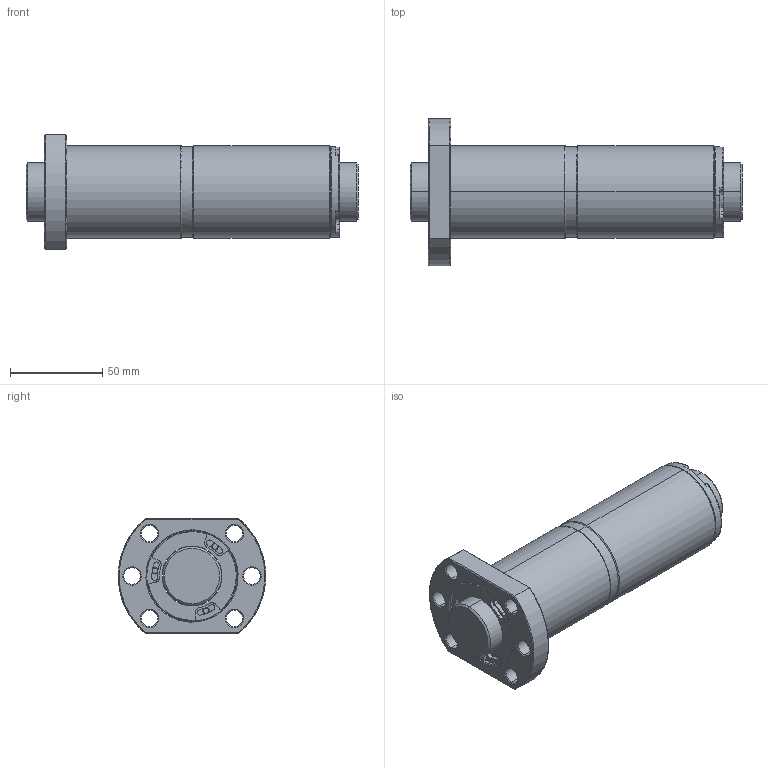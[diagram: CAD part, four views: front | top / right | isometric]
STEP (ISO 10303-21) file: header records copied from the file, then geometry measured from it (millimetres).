
FILE_DESCRIPTION (( 'STEP AP203' ), '1' );
FILE_NAME ('DFSR03220B1D-C.STEP', '2020-06-17T02:31:35', ( '' ), ( '' ), 'SwSTEP 2.0', 'SolidWorks 2013', '' );
FILE_SCHEMA (( 'CONFIG_CONTROL_DESIGN' ));
Length unit declared in the file: millimetre
Products named in the file (1): DFSR03220B1D-C
Bounding box: 180 x 79.87 x 62 mm (x, y, z)
Volume: 340876.7 mm3; surface area: 73120.6 mm2
Topology: 2 solids, 2 shells, 271 faces, 664 edges, 416 vertices
Faces by surface type: cylinder 141, plane 75, cone 33, bspline 22
Entity records: 10911 total; most frequent: CARTESIAN_POINT 4284, DIRECTION 1492, ORIENTED_EDGE 1328, EDGE_CURVE 664, AXIS2_PLACEMENT_3D 634, VERTEX_POINT 416, CIRCLE 384, EDGE_LOOP 308
